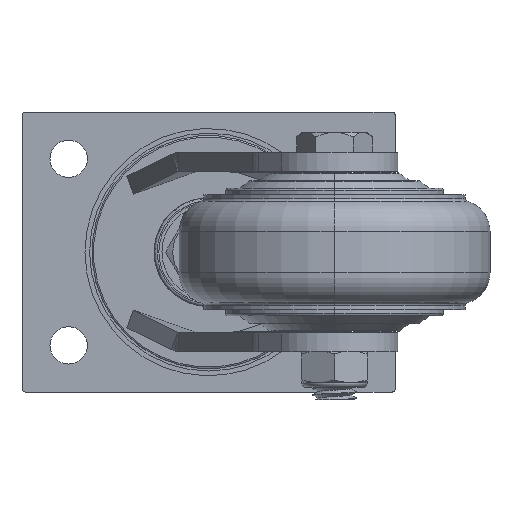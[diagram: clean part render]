
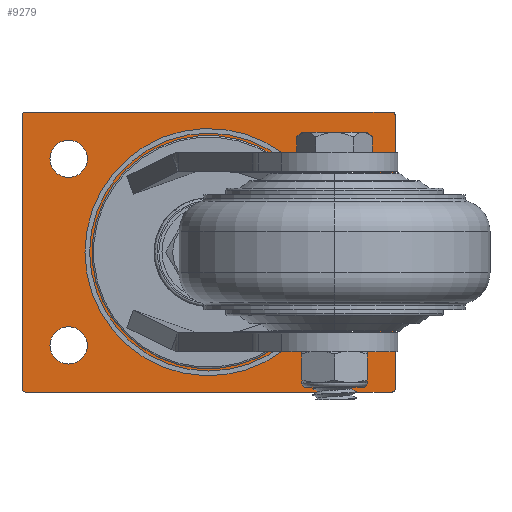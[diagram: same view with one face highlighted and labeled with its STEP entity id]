
A CAD part, front view. The second image highlights one B-rep face of the part: STEP entity #9279.
In plain terms, the highlighted planar face has unit normal (0, -1, 0).
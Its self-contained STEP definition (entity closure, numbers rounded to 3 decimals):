
#8107=CARTESIAN_POINT('',(0.,-8.,0.));
#8108=DIRECTION('',(0.,-1.,0.));
#8109=DIRECTION('',(-1.,0.,0.));
#8110=AXIS2_PLACEMENT_3D('',#8107,#8108,#8109);
#8112=CARTESIAN_POINT('',(0.,-8.,0.));
#8113=DIRECTION('',(0.,-1.,0.));
#8114=DIRECTION('',(1.,0.,0.));
#8115=AXIS2_PLACEMENT_3D('',#8112,#8113,#8114);
#8117=CARTESIAN_POINT('',(-59.,-8.,44.));
#8118=DIRECTION('',(0.,1.,0.));
#8119=DIRECTION('',(-1.,0.,0.));
#8120=AXIS2_PLACEMENT_3D('',#8117,#8118,#8119);
#8122=DIRECTION('',(-1.,0.,0.));
#8123=VECTOR('',#8122,118.);
#8124=CARTESIAN_POINT('',(59.,-8.,45.));
#8125=LINE('',#8124,#8123);
#8126=CARTESIAN_POINT('',(59.,-8.,44.));
#8127=DIRECTION('',(0.,1.,0.));
#8128=DIRECTION('',(0.,0.,1.));
#8129=AXIS2_PLACEMENT_3D('',#8126,#8127,#8128);
#8131=DIRECTION('',(0.,0.,1.));
#8132=VECTOR('',#8131,88.);
#8133=CARTESIAN_POINT('',(60.,-8.,-44.));
#8134=LINE('',#8133,#8132);
#8135=CARTESIAN_POINT('',(59.,-8.,-44.));
#8136=DIRECTION('',(0.,1.,0.));
#8137=DIRECTION('',(1.,0.,0.));
#8138=AXIS2_PLACEMENT_3D('',#8135,#8136,#8137);
#8140=DIRECTION('',(1.,0.,0.));
#8141=VECTOR('',#8140,118.);
#8142=CARTESIAN_POINT('',(-59.,-8.,-45.));
#8143=LINE('',#8142,#8141);
#8144=CARTESIAN_POINT('',(-59.,-8.,-44.));
#8145=DIRECTION('',(0.,1.,0.));
#8146=DIRECTION('',(0.,0.,-1.));
#8147=AXIS2_PLACEMENT_3D('',#8144,#8145,#8146);
#8149=DIRECTION('',(0.,0.,-1.));
#8150=VECTOR('',#8149,88.);
#8151=CARTESIAN_POINT('',(-60.,-8.,44.));
#8152=LINE('',#8151,#8150);
#8153=CARTESIAN_POINT('',(-45.,-8.,-30.));
#8154=DIRECTION('',(0.,1.,0.));
#8155=DIRECTION('',(1.,0.,0.));
#8156=AXIS2_PLACEMENT_3D('',#8153,#8154,#8155);
#8158=CARTESIAN_POINT('',(-45.,-8.,-30.));
#8159=DIRECTION('',(0.,1.,0.));
#8160=DIRECTION('',(-1.,0.,0.));
#8161=AXIS2_PLACEMENT_3D('',#8158,#8159,#8160);
#8163=CARTESIAN_POINT('',(-45.,-8.,30.));
#8164=DIRECTION('',(0.,1.,0.));
#8165=DIRECTION('',(1.,0.,0.));
#8166=AXIS2_PLACEMENT_3D('',#8163,#8164,#8165);
#8168=CARTESIAN_POINT('',(-45.,-8.,30.));
#8169=DIRECTION('',(0.,1.,0.));
#8170=DIRECTION('',(-1.,0.,0.));
#8171=AXIS2_PLACEMENT_3D('',#8168,#8169,#8170);
#8173=CARTESIAN_POINT('',(45.,-8.,-30.));
#8174=DIRECTION('',(0.,1.,0.));
#8175=DIRECTION('',(1.,0.,0.));
#8176=AXIS2_PLACEMENT_3D('',#8173,#8174,#8175);
#8178=CARTESIAN_POINT('',(45.,-8.,-30.));
#8179=DIRECTION('',(0.,1.,0.));
#8180=DIRECTION('',(-1.,0.,0.));
#8181=AXIS2_PLACEMENT_3D('',#8178,#8179,#8180);
#8183=CARTESIAN_POINT('',(45.,-8.,30.));
#8184=DIRECTION('',(0.,1.,0.));
#8185=DIRECTION('',(1.,0.,0.));
#8186=AXIS2_PLACEMENT_3D('',#8183,#8184,#8185);
#8188=CARTESIAN_POINT('',(45.,-8.,30.));
#8189=DIRECTION('',(0.,1.,0.));
#8190=DIRECTION('',(-1.,0.,0.));
#8191=AXIS2_PLACEMENT_3D('',#8188,#8189,#8190);
#8768=CARTESIAN_POINT('',(-32.742,-8.,0.));
#8769=CARTESIAN_POINT('',(32.742,-8.,0.));
#8770=VERTEX_POINT('',#8768);
#8771=VERTEX_POINT('',#8769);
#8788=CARTESIAN_POINT('',(-60.,-8.,44.));
#8789=CARTESIAN_POINT('',(-59.,-8.,45.));
#8790=VERTEX_POINT('',#8788);
#8791=VERTEX_POINT('',#8789);
#8792=CARTESIAN_POINT('',(-60.,-8.,-44.));
#8793=VERTEX_POINT('',#8792);
#8794=CARTESIAN_POINT('',(-59.,-8.,-45.));
#8795=VERTEX_POINT('',#8794);
#8796=CARTESIAN_POINT('',(59.,-8.,-45.));
#8797=VERTEX_POINT('',#8796);
#8798=CARTESIAN_POINT('',(60.,-8.,-44.));
#8799=VERTEX_POINT('',#8798);
#8800=CARTESIAN_POINT('',(60.,-8.,44.));
#8801=VERTEX_POINT('',#8800);
#8802=CARTESIAN_POINT('',(59.,-8.,45.));
#8803=VERTEX_POINT('',#8802);
#8859=CARTESIAN_POINT('',(-39.,-8.,-30.));
#8860=CARTESIAN_POINT('',(-51.,-8.,-30.));
#8861=VERTEX_POINT('',#8859);
#8862=VERTEX_POINT('',#8860);
#8863=CARTESIAN_POINT('',(-39.,-8.,30.));
#8864=CARTESIAN_POINT('',(-51.,-8.,30.));
#8865=VERTEX_POINT('',#8863);
#8866=VERTEX_POINT('',#8864);
#8867=CARTESIAN_POINT('',(51.,-8.,-30.));
#8868=CARTESIAN_POINT('',(39.,-8.,-30.));
#8869=VERTEX_POINT('',#8867);
#8870=VERTEX_POINT('',#8868);
#8871=CARTESIAN_POINT('',(51.,-8.,30.));
#8872=CARTESIAN_POINT('',(39.,-8.,30.));
#8873=VERTEX_POINT('',#8871);
#8874=VERTEX_POINT('',#8872);
#9226=CARTESIAN_POINT('',(0.,-8.,0.));
#9227=DIRECTION('',(0.,1.,0.));
#9228=DIRECTION('',(1.,0.,0.));
#9229=AXIS2_PLACEMENT_3D('',#9226,#9227,#9228);
#9230=PLANE('',#9229);
#9232=ORIENTED_EDGE('',*,*,#9231,.T.);
#9234=ORIENTED_EDGE('',*,*,#9233,.F.);
#9236=ORIENTED_EDGE('',*,*,#9235,.T.);
#9238=ORIENTED_EDGE('',*,*,#9237,.F.);
#9240=ORIENTED_EDGE('',*,*,#9239,.T.);
#9242=ORIENTED_EDGE('',*,*,#9241,.F.);
#9244=ORIENTED_EDGE('',*,*,#9243,.T.);
#9246=ORIENTED_EDGE('',*,*,#9245,.F.);
#9247=EDGE_LOOP('',(#9232,#9234,#9236,#9238,#9240,#9242,#9244,#9246));
#9248=FACE_OUTER_BOUND('',#9247,.F.);
#9250=ORIENTED_EDGE('',*,*,#9249,.T.);
#9252=ORIENTED_EDGE('',*,*,#9251,.T.);
#9253=EDGE_LOOP('',(#9250,#9252));
#9254=FACE_BOUND('',#9253,.F.);
#9256=ORIENTED_EDGE('',*,*,#9255,.F.);
#9258=ORIENTED_EDGE('',*,*,#9257,.F.);
#9259=EDGE_LOOP('',(#9256,#9258));
#9260=FACE_BOUND('',#9259,.F.);
#9262=ORIENTED_EDGE('',*,*,#9261,.F.);
#9264=ORIENTED_EDGE('',*,*,#9263,.F.);
#9265=EDGE_LOOP('',(#9262,#9264));
#9266=FACE_BOUND('',#9265,.F.);
#9268=ORIENTED_EDGE('',*,*,#9267,.F.);
#9270=ORIENTED_EDGE('',*,*,#9269,.F.);
#9271=EDGE_LOOP('',(#9268,#9270));
#9272=FACE_BOUND('',#9271,.F.);
#9274=ORIENTED_EDGE('',*,*,#9273,.F.);
#9276=ORIENTED_EDGE('',*,*,#9275,.F.);
#9277=EDGE_LOOP('',(#9274,#9276));
#9278=FACE_BOUND('',#9277,.F.);
#9279=ADVANCED_FACE('',(#9248,#9254,#9260,#9266,#9272,#9278),#9230,.F.);
#8111=CIRCLE('',#8110,32.742);
#8116=CIRCLE('',#8115,32.742);
#8121=CIRCLE('',#8120,1.);
#8130=CIRCLE('',#8129,1.);
#8139=CIRCLE('',#8138,1.);
#8148=CIRCLE('',#8147,1.);
#8157=CIRCLE('',#8156,6.);
#8162=CIRCLE('',#8161,6.);
#8167=CIRCLE('',#8166,6.);
#8172=CIRCLE('',#8171,6.);
#8177=CIRCLE('',#8176,6.);
#8182=CIRCLE('',#8181,6.);
#8187=CIRCLE('',#8186,6.);
#8192=CIRCLE('',#8191,6.);
#9231=EDGE_CURVE('',#8790,#8791,#8121,.T.);
#9233=EDGE_CURVE('',#8803,#8791,#8125,.T.);
#9235=EDGE_CURVE('',#8803,#8801,#8130,.T.);
#9237=EDGE_CURVE('',#8799,#8801,#8134,.T.);
#9239=EDGE_CURVE('',#8799,#8797,#8139,.T.);
#9241=EDGE_CURVE('',#8795,#8797,#8143,.T.);
#9243=EDGE_CURVE('',#8795,#8793,#8148,.T.);
#9245=EDGE_CURVE('',#8790,#8793,#8152,.T.);
#9249=EDGE_CURVE('',#8770,#8771,#8111,.T.);
#9251=EDGE_CURVE('',#8771,#8770,#8116,.T.);
#9255=EDGE_CURVE('',#8861,#8862,#8157,.T.);
#9257=EDGE_CURVE('',#8862,#8861,#8162,.T.);
#9261=EDGE_CURVE('',#8865,#8866,#8167,.T.);
#9263=EDGE_CURVE('',#8866,#8865,#8172,.T.);
#9267=EDGE_CURVE('',#8869,#8870,#8177,.T.);
#9269=EDGE_CURVE('',#8870,#8869,#8182,.T.);
#9273=EDGE_CURVE('',#8873,#8874,#8187,.T.);
#9275=EDGE_CURVE('',#8874,#8873,#8192,.T.);
